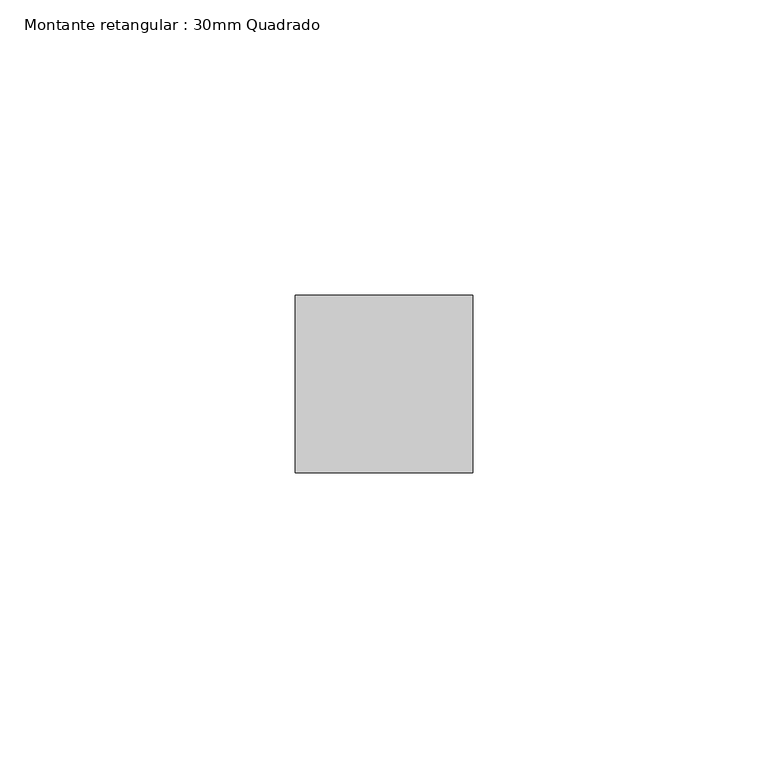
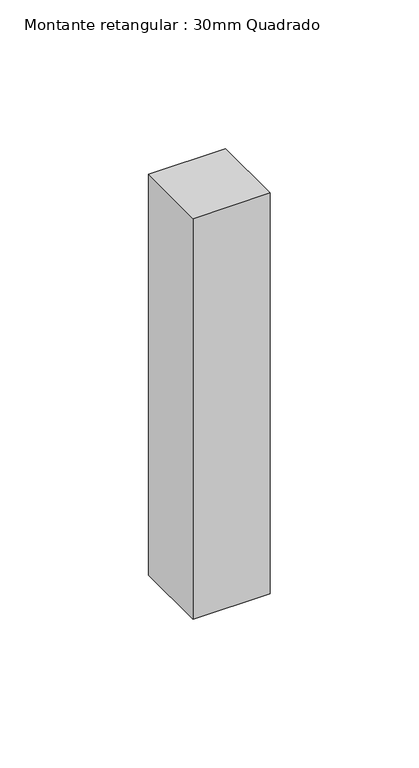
"""IFC4 building model written with IfcOpenShell, lengths in millimetres: member geometry, Montante retangular : 30mm Quadrado."""

import ifcopenshell
import ifcopenshell.guid

model = None  # the IFC model being written
_history = None  # IfcOwnerHistory: only IFC2X3 demands one
_inside = {}  # id of a spatial element -> (the spatial element, [elements in it])
_under = {}  # id of a project, library or spatial element -> (it, [spatial elements below it])
_declared = {}  # id of a project -> (the project, [libraries it declares])
_typed = {}  # id of a type object -> (the type object, [elements of that type])
_made_of = {}  # id of a material, layer set ... -> (it, [elements and type objects made of it])


def new_model(schema):
    """Start an empty IFC model of exactly this schema.

    Asked for "IFC4X3", IfcOpenShell would pick the latest addendum, in which some entities
    have other attributes; the version numbers below select the first issue.
    IFC2X3 requires an IfcOwnerHistory on every rooted entity: one is made here for all.
    """
    global model, _history
    if schema == "IFC4X3":
        model = ifcopenshell.file(schema_version=(4, 3, 0, 0))
    else:
        model = ifcopenshell.file(schema=schema)
    _inside.clear()
    _under.clear()
    _declared.clear()
    _typed.clear()
    _made_of.clear()
    _history = None
    if model.schema == "IFC2X3":
        org = make("IfcOrganization", Name="unknown")
        user = make(
            "IfcPersonAndOrganization",
            ThePerson=make("IfcPerson", FamilyName="unknown"),
            TheOrganization=org,
        )
        app = make(
            "IfcApplication",
            ApplicationDeveloper=org,
            Version="unknown",
            ApplicationFullName="unknown",
            ApplicationIdentifier="unknown",
        )
        _history = make(
            "IfcOwnerHistory",
            OwningUser=user,
            OwningApplication=app,
            ChangeAction="ADDED",
            CreationDate=0,
        )
    return model


def make(cls, **values):
    """One entity of the class cls with the attributes given. An attribute that is None is left unset."""
    return model.create_entity(
        cls, **{name: value for name, value in values.items() if value is not None}
    )


def rooted(cls, **values):
    """An entity with a GlobalId (a new one), such as an element, a storey or a relation."""
    return make(cls, GlobalId=ifcopenshell.guid.new(), OwnerHistory=_history, **values)


def si_unit(unit_type, name, prefix=None):
    """IfcSIUnit, for example si_unit("LENGTHUNIT", "METRE", prefix="MILLI")."""
    return make("IfcSIUnit", UnitType=unit_type, Prefix=prefix, Name=name)


def assignment(units):
    """IfcUnitAssignment: the units of a project."""
    return None if units is None else make("IfcUnitAssignment", Units=units)


def point(xyz):
    """IfcCartesianPoint."""
    return None if xyz is None else make("IfcCartesianPoint", Coordinates=xyz)


def direction(xyz):
    """IfcDirection."""
    return None if xyz is None else make("IfcDirection", DirectionRatios=xyz)


def frame(location, z_axis=None, x_axis=None):
    """IfcAxis2Placement3D, a coordinate frame: its origin and axes. An axis left out is left unset."""
    return make(
        "IfcAxis2Placement3D",
        Location=point(location),
        Axis=direction(z_axis),
        RefDirection=direction(x_axis),
    )


def origin():
    """The frame at (0, 0, 0) with its axes left unset."""
    return frame((0.0, 0.0, 0.0))


def place(relative_to, where):
    """IfcLocalPlacement: puts the frame where relative to a parent placement (None: the world)."""
    return make(
        "IfcLocalPlacement", PlacementRelTo=relative_to, RelativePlacement=where
    )


def context(
    kind, dimensions, precision=None, world=None, true_north=None, identifier=None
):
    """IfcGeometricRepresentationContext, for example the 3D "Model" context."""
    return make(
        "IfcGeometricRepresentationContext",
        ContextIdentifier=identifier,
        ContextType=kind,
        CoordinateSpaceDimension=dimensions,
        Precision=precision,
        WorldCoordinateSystem=world,
        TrueNorth=true_north,
    )


def project(units=None, contexts=None):
    """IfcProject with its units and contexts."""
    return rooted(
        "IfcProject",
        Name="project",
        RepresentationContexts=contexts,
        UnitsInContext=assignment(units),
    )


def spatial(cls, under=None, at=None, **own):
    """A site, building, storey or space (cls), placed at a placement, below another one or the project."""
    s = rooted(cls, ObjectPlacement=at, **own)
    if under is not None:
        _under.setdefault(under.id(), (under, []))[1].append(s)
    return s


def polyline(points):
    """IfcPolyline through the points."""
    return make("IfcPolyline", Points=[point(p) for p in points])


def outline(outer, holes=None, kind="AREA"):
    """IfcArbitraryClosedProfileDef: a profile drawn as a closed curve; with holes, ...WithVoids."""
    if holes is None:
        return make("IfcArbitraryClosedProfileDef", ProfileType=kind, OuterCurve=outer)
    return make(
        "IfcArbitraryProfileDefWithVoids",
        ProfileType=kind,
        OuterCurve=outer,
        InnerCurves=holes,
    )


def extrude(swept, where, along, depth):
    """IfcExtrudedAreaSolid: the profile swept, set in the frame where, extruded along a direction by depth."""
    return make(
        "IfcExtrudedAreaSolid",
        SweptArea=swept,
        Position=where,
        ExtrudedDirection=direction(along),
        Depth=depth,
    )


def shape(context_of_items, identifier, shape_type, items):
    """IfcShapeRepresentation: the items that make up one representation, for example the "Body"."""
    return make(
        "IfcShapeRepresentation",
        ContextOfItems=context_of_items,
        RepresentationIdentifier=identifier,
        RepresentationType=shape_type,
        Items=items,
    )


def source(mapping_origin, context_of_items, identifier, shape_type, items):
    """IfcRepresentationMap: a shape defined once, which mapped items show again and again."""
    return make(
        "IfcRepresentationMap",
        MappingOrigin=mapping_origin,
        MappedRepresentation=shape(context_of_items, identifier, shape_type, items),
    )


def transform(
    local_origin,
    x_axis=None,
    y_axis=None,
    z_axis=None,
    scale=None,
    scale2=None,
    scale3=None,
    uniform=True,
):
    """IfcCartesianTransformationOperator3D, or its non-uniform kind. x_axis, y_axis, z_axis: its Axis1, 2, 3."""
    if uniform:
        return make(
            "IfcCartesianTransformationOperator3D",
            Axis1=direction(x_axis),
            Axis2=direction(y_axis),
            LocalOrigin=point(local_origin),
            Scale=scale,
            Axis3=direction(z_axis),
        )
    return make(
        "IfcCartesianTransformationOperator3DnonUniform",
        Axis1=direction(x_axis),
        Axis2=direction(y_axis),
        LocalOrigin=point(local_origin),
        Scale=scale,
        Axis3=direction(z_axis),
        Scale2=scale2,
        Scale3=scale3,
    )


def mapped(mapping_source, mapping_target):
    """IfcMappedItem: shows the shape of a source again, moved by a transform."""
    return make(
        "IfcMappedItem", MappingSource=mapping_source, MappingTarget=mapping_target
    )


def made_of(thing, what):
    """Note that an element or type object is made of a material, layer set ...; save() writes the relation."""
    if what is not None:
        _made_of.setdefault(what.id(), (what, []))[1].append(thing)
    return thing


def element(
    cls,
    number,
    at=None,
    inside=None,
    cuts=None,
    type_object=None,
    material=None,
    context=None,
    identifier="Body",
    shape_type=None,
    held_by="IfcProductDefinitionShape",
    body=None,
    shapes=None,
    **own,
):
    """One element of the class cls, such as IfcWall. Its Tag is "e" and its number.

    at: its placement. inside: the storey or other place that contains it. cuts: it is an
    opening in that element (IfcRelVoidsElement). A single representation is given by context,
    identifier, shape_type and body (its items); several are given by shapes. held_by: the class
    of the entity that holds the representations. save() writes the other relations.
    """
    e = rooted(cls, Tag="e%d" % number, ObjectPlacement=at, **own)
    if body is not None:
        shapes = [shape(context, identifier, shape_type, body)]
    if shapes is not None:
        e.Representation = make(held_by, Representations=shapes)
    if inside is not None:
        _inside.setdefault(inside.id(), (inside, []))[1].append(e)
    if cuts is not None:
        rooted(
            "IfcRelVoidsElement", RelatingBuildingElement=cuts, RelatedOpeningElement=e
        )
    if type_object is not None:
        _typed.setdefault(type_object.id(), (type_object, []))[1].append(e)
    return made_of(e, material)


def aggregate(whole, parts):
    """IfcRelAggregates: a whole, such as a stair, and the parts it consists of."""
    return rooted("IfcRelAggregates", RelatingObject=whole, RelatedObjects=parts)


def save(model, path):
    """Write the relations noted so far, then the file.

    IfcRelAggregates (storeys below a building ...), IfcRelContainedInSpatialStructure (elements
    in a storey), IfcRelDefinesByType, IfcRelAssociatesMaterial and IfcRelDeclares: one each for
    every whole, place, type object, material and project.
    """
    for whole, parts in _under.values():
        aggregate(whole, parts)
    for where, things in _inside.values():
        rooted(
            "IfcRelContainedInSpatialStructure",
            RelatedElements=things,
            RelatingStructure=where,
        )
    for kind, things in _typed.values():
        rooted("IfcRelDefinesByType", RelatedObjects=things, RelatingType=kind)
    for what, things in _made_of.values():
        rooted("IfcRelAssociatesMaterial", RelatedObjects=things, RelatingMaterial=what)
    for by, libraries in _declared.values():
        rooted("IfcRelDeclares", RelatingContext=by, RelatedDefinitions=libraries)
    model.write(path)


def montante_retangular_30mm_quadrado_8179dd59(model_context):
    return source(origin(), model_context, "Body", "SweptSolid", [
        extrude(outline(polyline([(15.0, 15.0), (15.0, -15.0), (-15.0, -15.0), (-15.0, 15.0), (15.0, 15.0)])), frame((0.0, 0.0, -164.6299474), z_axis=(0.0, 0.0, 1.0), x_axis=(1.0, 0.0, 0.0)), (0.0, 0.0, 1.0), 164.6299474),
    ])


if __name__ == "__main__":
    model = new_model("IFC4")
    model_context = context("Model", 3, world=origin())
    ifc_project = project(units=[si_unit("LENGTHUNIT", "METRE", prefix="MILLI")], contexts=[model_context])
    site = spatial("IfcSite", under=ifc_project)
    building = spatial("IfcBuilding", under=site)
    placement = place(None, origin())
    montante_retangular_30mm_quadrado_shape = montante_retangular_30mm_quadrado_8179dd59(model_context)
    element("IfcMember", 1, ObjectType="Montante retangular : 30mm Quadrado", at=placement, inside=building, context=model_context, shape_type="MappedRepresentation", body=[
        mapped(montante_retangular_30mm_quadrado_shape, transform((0.0, 0.0, 0.0), x_axis=(1.0, 0.0, 0.0), y_axis=(0.0, 1.0, 0.0), z_axis=(0.0, 0.0, 1.0))),
    ])
    save(model, "model.ifc")
